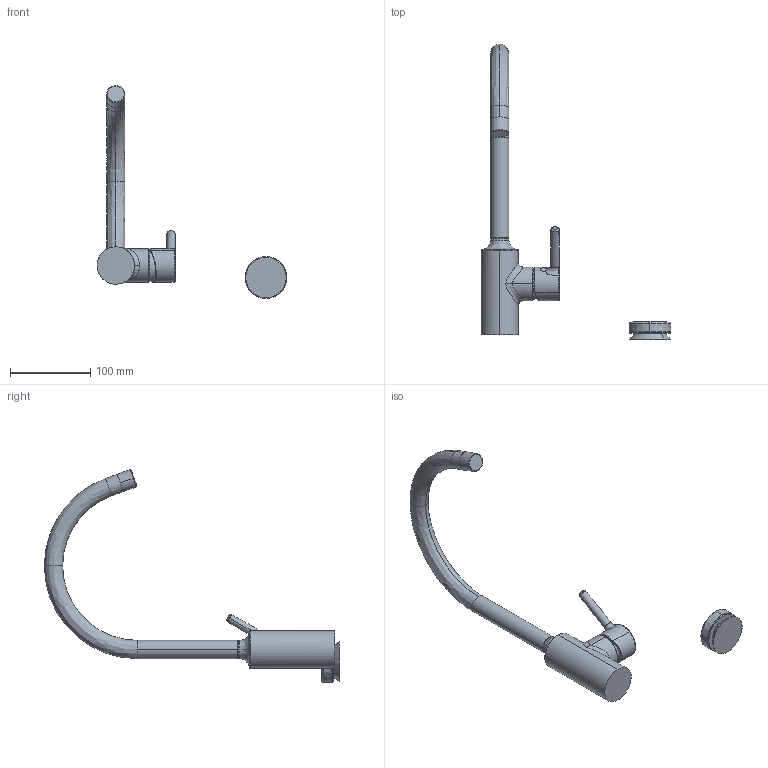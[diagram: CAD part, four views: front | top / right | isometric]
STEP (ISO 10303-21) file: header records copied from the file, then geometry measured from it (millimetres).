
FILE_DESCRIPTION (( 'STEP AP203' ), '1' );
FILE_NAME ('2639AF(2023).STEP', '2024-01-23T08:28:47', ( '' ), ( '' ), 'SwSTEP 2.0', 'SolidWorks 2016', '' );
FILE_SCHEMA (( 'CONFIG_CONTROL_DESIGN' ));
Length unit declared in the file: millimetre
Products named in the file (1): 2639AF(2023)
Bounding box: 235.99 x 367.25 x 264.67 mm (x, y, z)
Volume: 508308.2 mm3; surface area: 83652.5 mm2
Topology: 8 solids, 8 shells, 105 faces, 237 edges, 152 vertices
Faces by surface type: bspline 40, cylinder 24, plane 19, torus 16, cone 4, sphere 2
Entity records: 8453 total; most frequent: CARTESIAN_POINT 6251, ORIENTED_EDGE 474, DIRECTION 391, EDGE_CURVE 237, AXIS2_PLACEMENT_3D 180, VERTEX_POINT 152, CIRCLE 114, EDGE_LOOP 109
